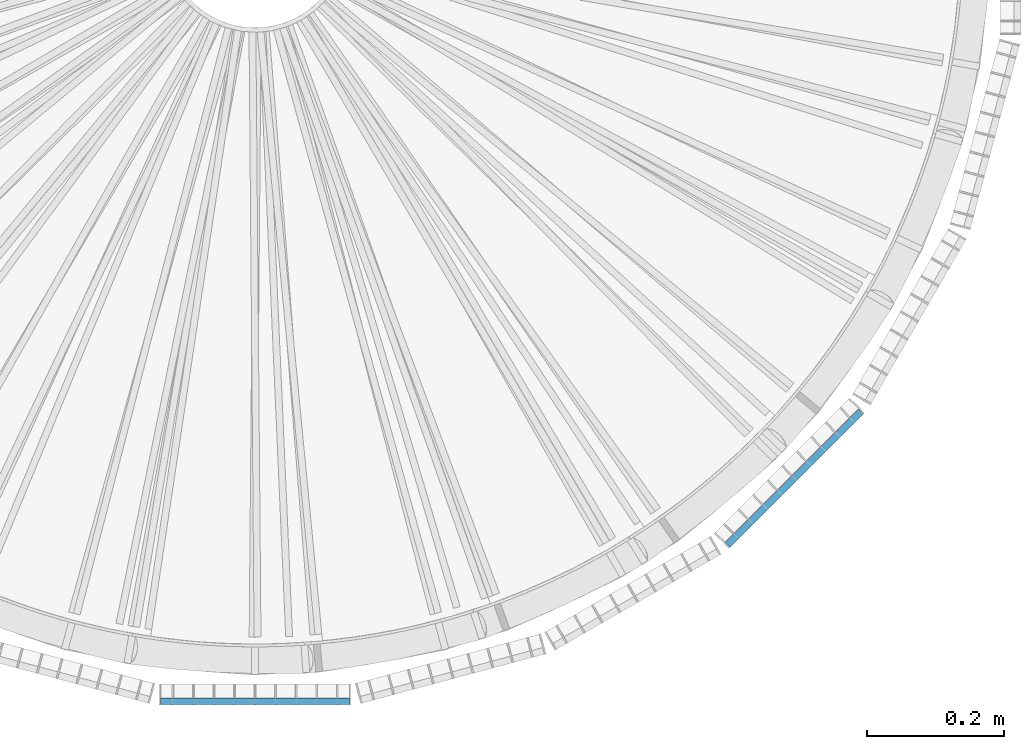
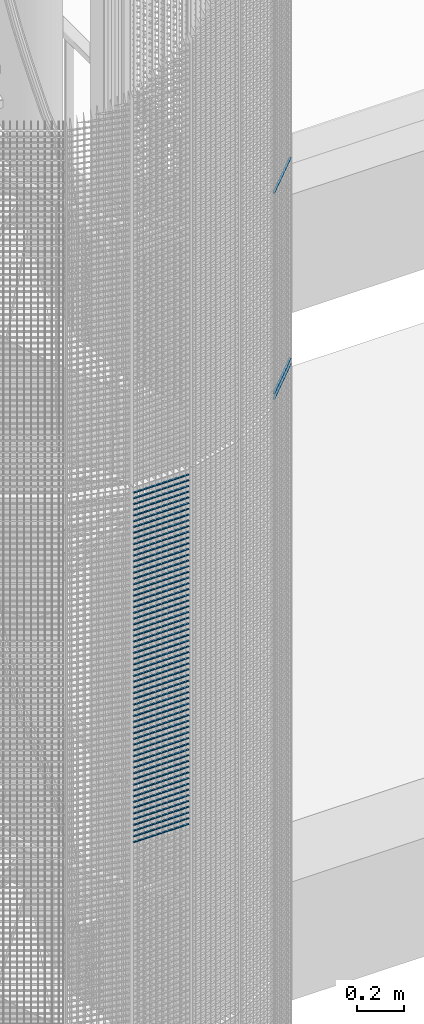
# One storey, part 397 of 1183: 65 beams, 2 elements without a shape of their own.
"""IFC2X3 building model written with IfcOpenShell, lengths in millimetres."""

import ifcopenshell
import ifcopenshell.guid

model = None  # the IFC model being written
_history = None  # IfcOwnerHistory: only IFC2X3 demands one
_inside = {}  # id of a spatial element -> (the spatial element, [elements in it])
_under = {}  # id of a project, library or spatial element -> (it, [spatial elements below it])
_declared = {}  # id of a project -> (the project, [libraries it declares])
_typed = {}  # id of a type object -> (the type object, [elements of that type])
_made_of = {}  # id of a material, layer set ... -> (it, [elements and type objects made of it])


def new_model(schema):
    """Start an empty IFC model of exactly this schema.

    Asked for "IFC4X3", IfcOpenShell would pick the latest addendum, in which some entities
    have other attributes; the version numbers below select the first issue.
    IFC2X3 requires an IfcOwnerHistory on every rooted entity: one is made here for all.
    """
    global model, _history
    if schema == "IFC4X3":
        model = ifcopenshell.file(schema_version=(4, 3, 0, 0))
    else:
        model = ifcopenshell.file(schema=schema)
    _inside.clear()
    _under.clear()
    _declared.clear()
    _typed.clear()
    _made_of.clear()
    _history = None
    if model.schema == "IFC2X3":
        org = make("IfcOrganization", Name="unknown")
        user = make(
            "IfcPersonAndOrganization",
            ThePerson=make("IfcPerson", FamilyName="unknown"),
            TheOrganization=org,
        )
        app = make(
            "IfcApplication",
            ApplicationDeveloper=org,
            Version="unknown",
            ApplicationFullName="unknown",
            ApplicationIdentifier="unknown",
        )
        _history = make(
            "IfcOwnerHistory",
            OwningUser=user,
            OwningApplication=app,
            ChangeAction="ADDED",
            CreationDate=0,
        )
    return model


def make(cls, **values):
    """One entity of the class cls with the attributes given. An attribute that is None is left unset."""
    return model.create_entity(
        cls, **{name: value for name, value in values.items() if value is not None}
    )


def rooted(cls, **values):
    """An entity with a GlobalId (a new one), such as an element, a storey or a relation."""
    return make(cls, GlobalId=ifcopenshell.guid.new(), OwnerHistory=_history, **values)


def si_unit(unit_type, name, prefix=None):
    """IfcSIUnit, for example si_unit("LENGTHUNIT", "METRE", prefix="MILLI")."""
    return make("IfcSIUnit", UnitType=unit_type, Prefix=prefix, Name=name)


def assignment(units):
    """IfcUnitAssignment: the units of a project."""
    return None if units is None else make("IfcUnitAssignment", Units=units)


def point(xyz):
    """IfcCartesianPoint."""
    return None if xyz is None else make("IfcCartesianPoint", Coordinates=xyz)


def direction(xyz):
    """IfcDirection."""
    return None if xyz is None else make("IfcDirection", DirectionRatios=xyz)


def frame(location, z_axis=None, x_axis=None):
    """IfcAxis2Placement3D, a coordinate frame: its origin and axes. An axis left out is left unset."""
    return make(
        "IfcAxis2Placement3D",
        Location=point(location),
        Axis=direction(z_axis),
        RefDirection=direction(x_axis),
    )


def frame_2d(location, x_axis=None):
    """IfcAxis2Placement2D, a coordinate frame in the plane: its origin and x axis."""
    return make(
        "IfcAxis2Placement2D", Location=point(location), RefDirection=direction(x_axis)
    )


def origin_with_axes():
    """The frame at (0, 0, 0) with the z axis (0, 0, 1) and the x axis (1, 0, 0) written out."""
    return frame((0.0, 0.0, 0.0), z_axis=(0.0, 0.0, 1.0), x_axis=(1.0, 0.0, 0.0))


def origin_2d_with_axis():
    """The frame at (0, 0) in the plane with the x axis (1, 0) written out."""
    return frame_2d((0.0, 0.0), x_axis=(1.0, 0.0))


def place(relative_to, where):
    """IfcLocalPlacement: puts the frame where relative to a parent placement (None: the world)."""
    return make(
        "IfcLocalPlacement", PlacementRelTo=relative_to, RelativePlacement=where
    )


def context(
    kind, dimensions, precision=None, world=None, true_north=None, identifier=None
):
    """IfcGeometricRepresentationContext, for example the 3D "Model" context."""
    return make(
        "IfcGeometricRepresentationContext",
        ContextIdentifier=identifier,
        ContextType=kind,
        CoordinateSpaceDimension=dimensions,
        Precision=precision,
        WorldCoordinateSystem=world,
        TrueNorth=true_north,
    )


def subcontext(parent, identifier, kind, view, scale=None):
    """IfcGeometricRepresentationSubContext, for example "Body" below "Model"."""
    return make(
        "IfcGeometricRepresentationSubContext",
        ContextIdentifier=identifier,
        ContextType=kind,
        ParentContext=parent,
        TargetScale=scale,
        TargetView=view,
    )


def project(units=None, contexts=None):
    """IfcProject with its units and contexts."""
    return rooted(
        "IfcProject",
        Name="project",
        RepresentationContexts=contexts,
        UnitsInContext=assignment(units),
    )


def spatial(cls, under=None, at=None, **own):
    """A site, building, storey or space (cls), placed at a placement, below another one or the project."""
    s = rooted(cls, ObjectPlacement=at, **own)
    if under is not None:
        _under.setdefault(under.id(), (under, []))[1].append(s)
    return s


def profile(cls, at=None, kind="AREA", **sizes):
    """A parametric profile (cls). Its sizes go by their IFC names, for example OverallWidth=200.0."""
    return make(cls, ProfileType=kind, Position=at, **sizes)


def rectangle(**sizes):
    """IfcRectangleProfileDef."""
    return profile("IfcRectangleProfileDef", **sizes)


def extrude(swept, where, along, depth):
    """IfcExtrudedAreaSolid: the profile swept, set in the frame where, extruded along a direction by depth."""
    return make(
        "IfcExtrudedAreaSolid",
        SweptArea=swept,
        Position=where,
        ExtrudedDirection=direction(along),
        Depth=depth,
    )


def shape(context_of_items, identifier, shape_type, items):
    """IfcShapeRepresentation: the items that make up one representation, for example the "Body"."""
    return make(
        "IfcShapeRepresentation",
        ContextOfItems=context_of_items,
        RepresentationIdentifier=identifier,
        RepresentationType=shape_type,
        Items=items,
    )


def material(Name=None, Category=None):
    """IfcMaterial."""
    return make("IfcMaterial", Name=Name, Category=Category)


def made_of(thing, what):
    """Note that an element or type object is made of a material, layer set ...; save() writes the relation."""
    if what is not None:
        _made_of.setdefault(what.id(), (what, []))[1].append(thing)
    return thing


def type_object(cls, material=None, **own):
    """A type object (cls), such as IfcWallType, which elements share."""
    return made_of(rooted(cls, **own), material)


def element(
    cls,
    number,
    at=None,
    inside=None,
    cuts=None,
    type_object=None,
    material=None,
    context=None,
    identifier="Body",
    shape_type=None,
    held_by="IfcProductDefinitionShape",
    body=None,
    shapes=None,
    **own,
):
    """One element of the class cls, such as IfcWall. Its Tag is "e" and its number.

    at: its placement. inside: the storey or other place that contains it. cuts: it is an
    opening in that element (IfcRelVoidsElement). A single representation is given by context,
    identifier, shape_type and body (its items); several are given by shapes. held_by: the class
    of the entity that holds the representations. save() writes the other relations.
    """
    e = rooted(cls, Tag="e%d" % number, ObjectPlacement=at, **own)
    if body is not None:
        shapes = [shape(context, identifier, shape_type, body)]
    if shapes is not None:
        e.Representation = make(held_by, Representations=shapes)
    if inside is not None:
        _inside.setdefault(inside.id(), (inside, []))[1].append(e)
    if cuts is not None:
        rooted(
            "IfcRelVoidsElement", RelatingBuildingElement=cuts, RelatedOpeningElement=e
        )
    if type_object is not None:
        _typed.setdefault(type_object.id(), (type_object, []))[1].append(e)
    return made_of(e, material)


def aggregate(whole, parts):
    """IfcRelAggregates: a whole, such as a stair, and the parts it consists of."""
    return rooted("IfcRelAggregates", RelatingObject=whole, RelatedObjects=parts)


def save(model, path):
    """Write the relations noted so far, then the file.

    IfcRelAggregates (storeys below a building ...), IfcRelContainedInSpatialStructure (elements
    in a storey), IfcRelDefinesByType, IfcRelAssociatesMaterial and IfcRelDeclares: one each for
    every whole, place, type object, material and project.
    """
    for whole, parts in _under.values():
        aggregate(whole, parts)
    for where, things in _inside.values():
        rooted(
            "IfcRelContainedInSpatialStructure",
            RelatedElements=things,
            RelatingStructure=where,
        )
    for kind, things in _typed.values():
        rooted("IfcRelDefinesByType", RelatedObjects=things, RelatingType=kind)
    for what, things in _made_of.values():
        rooted("IfcRelAssociatesMaterial", RelatedObjects=things, RelatingMaterial=what)
    for by, libraries in _declared.values():
        rooted("IfcRelDeclares", RelatingContext=by, RelatedDefinitions=libraries)
    model.write(path)


model = new_model("IFC2X3")

# Units and contexts
model_context = context("Model", 3, precision=1e-05, world=origin_with_axes())
body_context = subcontext(model_context, "Body", "Model", "MODEL_VIEW")
ifc_project = project(units=[si_unit("LENGTHUNIT", "METRE", prefix="MILLI"), si_unit("AREAUNIT", "SQUARE_METRE"), si_unit("VOLUMEUNIT", "CUBIC_METRE"), si_unit("MASSUNIT", "GRAM", prefix="KILO"), si_unit("TIMEUNIT", "SECOND"), si_unit("PLANEANGLEUNIT", "RADIAN"), si_unit("SOLIDANGLEUNIT", "STERADIAN"), si_unit("THERMODYNAMICTEMPERATUREUNIT", "DEGREE_CELSIUS"), si_unit("LUMINOUSINTENSITYUNIT", "LUMEN")], contexts=[model_context])

# Site, building, storey
site_placement = place(None, origin_with_axes())
site = spatial("IfcSite", under=ifc_project, at=site_placement, Name="Undefined", CompositionType="ELEMENT")
building_placement = place(site_placement, origin_with_axes())
building = spatial("IfcBuilding", under=site, at=building_placement, Name="Undefined", CompositionType="ELEMENT")
storey_placement = place(building_placement, origin_with_axes())
storey = spatial("IfcBuildingStorey", under=building, at=storey_placement, Name="Undefined", CompositionType="ELEMENT", Elevation=0.0)

# Assembly, beams
assembly_1_placement = place(storey_placement, origin_with_axes())
assembly_1 = element("IfcElementAssembly", 1, at=assembly_1_placement, inside=storey, Name="BORDURE", AssemblyPlace="NOTDEFINED", PredefinedType="NOTDEFINED")
ifc_material = material(Name="STEEL/S235JR")
beam_type = type_object("IfcBeamType", Name="PL2*10", PredefinedType="NOTDEFINED")
beam_1_placement = place(assembly_1_placement, frame((22484.9271684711, -689.771348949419, 15060.0), z_axis=(0.707106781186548, -0.707106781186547, 0.0), x_axis=(-0.70710678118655, -0.707106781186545, 0.0)))
beam_1 = element("IfcBeam", 2, at=beam_1_placement, type_object=beam_type, material=ifc_material, Name="ENTRETOISE", context=body_context, shape_type="SweptSolid", body=[
    extrude(rectangle(XDim=2.0, YDim=10.0, at=origin_2d_with_axis()), frame((275.999999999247, 9.09494701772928e-13, 1.53210777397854e-14), z_axis=(-1.0, 0.0, 0.0), x_axis=(0.0, -1.0, 0.0)), (0.0, 0.0, 1.0), 276.0),
])
beam_2_placement = place(assembly_1_placement, frame((22484.9271684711, -689.771348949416, 16110.0), z_axis=(0.707106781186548, -0.707106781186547, 0.0), x_axis=(-0.70710678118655, -0.707106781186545, 0.0)))
beam_2 = element("IfcBeam", 3, at=beam_2_placement, type_object=beam_type, material=ifc_material, Name="ENTRETOISE", context=body_context, shape_type="SweptSolid", body=[
    extrude(rectangle(XDim=2.0, YDim=10.0, at=origin_2d_with_axis()), frame((275.999999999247, 9.09494701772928e-13, 1.53210777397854e-14), z_axis=(-1.0, 0.0, 0.0), x_axis=(0.0, -1.0, 0.0)), (0.0, 0.0, 1.0), 276.0),
])
beam_3_placement = place(assembly_1_placement, frame((22484.9271684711, -689.771348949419, 15030.0), z_axis=(0.707106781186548, -0.707106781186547, 0.0), x_axis=(-0.70710678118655, -0.707106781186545, 0.0)))
beam_3 = element("IfcBeam", 4, at=beam_3_placement, type_object=beam_type, material=ifc_material, Name="ENTRETOISE", context=body_context, shape_type="SweptSolid", body=[
    extrude(rectangle(XDim=2.0, YDim=10.0, at=origin_2d_with_axis()), frame((275.999999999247, 9.09494701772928e-13, 1.53210777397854e-14), z_axis=(-1.0, 0.0, 0.0), x_axis=(0.0, -1.0, 0.0)), (0.0, 0.0, 1.0), 276.0),
])
aggregate(assembly_1, [beam_1, beam_2, beam_3])

assembly_2_placement = place(storey_placement, origin_with_axes())
assembly_2 = element("IfcElementAssembly", 5, at=assembly_2_placement, inside=storey, Name="BORDURE", AssemblyPlace="NOTDEFINED", PredefinedType="NOTDEFINED")
beam_4_placement = place(assembly_2_placement, frame((21737.9960033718, -1113.47999999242, 14970.0), z_axis=(0.0, -1.0, 0.0), x_axis=(-1.0, 0.0, 0.0)))
beam_4 = element("IfcBeam", 6, at=beam_4_placement, type_object=beam_type, material=ifc_material, Name="ENTRETOISE", context=body_context, shape_type="SweptSolid", body=[
    extrude(rectangle(XDim=2.0, YDim=10.0, at=origin_2d_with_axis()), frame((275.999999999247, 9.09494701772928e-13, 1.53210777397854e-14), z_axis=(-1.0, 0.0, 0.0), x_axis=(0.0, -1.0, 0.0)), (0.0, 0.0, 1.0), 276.0),
])
beam_5_placement = place(assembly_2_placement, frame((21737.9960033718, -1113.47999999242, 14940.0), z_axis=(0.0, -1.0, 0.0), x_axis=(-1.0, 0.0, 0.0)))
beam_5 = element("IfcBeam", 7, at=beam_5_placement, type_object=beam_type, material=ifc_material, Name="ENTRETOISE", context=body_context, shape_type="SweptSolid", body=[
    extrude(rectangle(XDim=2.0, YDim=10.0, at=origin_2d_with_axis()), frame((275.999999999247, 9.09494701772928e-13, 1.53210777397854e-14), z_axis=(-1.0, 0.0, 0.0), x_axis=(0.0, -1.0, 0.0)), (0.0, 0.0, 1.0), 276.0),
])
beam_6_placement = place(assembly_2_placement, frame((21737.9960033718, -1113.47999999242, 14910.0), z_axis=(0.0, -1.0, 0.0), x_axis=(-1.0, 0.0, 0.0)))
beam_6 = element("IfcBeam", 8, at=beam_6_placement, type_object=beam_type, material=ifc_material, Name="ENTRETOISE", context=body_context, shape_type="SweptSolid", body=[
    extrude(rectangle(XDim=2.0, YDim=10.0, at=origin_2d_with_axis()), frame((275.999999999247, 9.09494701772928e-13, 1.53210777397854e-14), z_axis=(-1.0, 0.0, 0.0), x_axis=(0.0, -1.0, 0.0)), (0.0, 0.0, 1.0), 276.0),
])
beam_7_placement = place(assembly_2_placement, frame((21737.9960033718, -1113.47999999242, 14880.0), z_axis=(0.0, -1.0, 0.0), x_axis=(-1.0, 0.0, 0.0)))
beam_7 = element("IfcBeam", 9, at=beam_7_placement, type_object=beam_type, material=ifc_material, Name="ENTRETOISE", context=body_context, shape_type="SweptSolid", body=[
    extrude(rectangle(XDim=2.0, YDim=10.0, at=origin_2d_with_axis()), frame((275.999999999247, 9.09494701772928e-13, 1.53210777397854e-14), z_axis=(-1.0, 0.0, 0.0), x_axis=(0.0, -1.0, 0.0)), (0.0, 0.0, 1.0), 276.0),
])
beam_8_placement = place(assembly_2_placement, frame((21737.9960033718, -1113.47999999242, 14850.0), z_axis=(0.0, -1.0, 0.0), x_axis=(-1.0, 0.0, 0.0)))
beam_8 = element("IfcBeam", 10, at=beam_8_placement, type_object=beam_type, material=ifc_material, Name="ENTRETOISE", context=body_context, shape_type="SweptSolid", body=[
    extrude(rectangle(XDim=2.0, YDim=10.0, at=origin_2d_with_axis()), frame((275.999999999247, 9.09494701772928e-13, 1.53210777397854e-14), z_axis=(-1.0, 0.0, 0.0), x_axis=(0.0, -1.0, 0.0)), (0.0, 0.0, 1.0), 276.0),
])
beam_9_placement = place(assembly_2_placement, frame((21737.9960033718, -1113.47999999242, 14820.0), z_axis=(0.0, -1.0, 0.0), x_axis=(-1.0, 0.0, 0.0)))
beam_9 = element("IfcBeam", 11, at=beam_9_placement, type_object=beam_type, material=ifc_material, Name="ENTRETOISE", context=body_context, shape_type="SweptSolid", body=[
    extrude(rectangle(XDim=2.0, YDim=10.0, at=origin_2d_with_axis()), frame((275.999999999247, 9.09494701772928e-13, 1.53210777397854e-14), z_axis=(-1.0, 0.0, 0.0), x_axis=(0.0, -1.0, 0.0)), (0.0, 0.0, 1.0), 276.0),
])
beam_10_placement = place(assembly_2_placement, frame((21737.9960033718, -1113.47999999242, 14790.0), z_axis=(0.0, -1.0, 0.0), x_axis=(-1.0, 0.0, 0.0)))
beam_10 = element("IfcBeam", 12, at=beam_10_placement, type_object=beam_type, material=ifc_material, Name="ENTRETOISE", context=body_context, shape_type="SweptSolid", body=[
    extrude(rectangle(XDim=2.0, YDim=10.0, at=origin_2d_with_axis()), frame((275.999999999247, 9.09494701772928e-13, 1.53210777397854e-14), z_axis=(-1.0, 0.0, 0.0), x_axis=(0.0, -1.0, 0.0)), (0.0, 0.0, 1.0), 276.0),
])
beam_11_placement = place(assembly_2_placement, frame((21737.9960033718, -1113.47999999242, 14760.0), z_axis=(0.0, -1.0, 0.0), x_axis=(-1.0, 0.0, 0.0)))
beam_11 = element("IfcBeam", 13, at=beam_11_placement, type_object=beam_type, material=ifc_material, Name="ENTRETOISE", context=body_context, shape_type="SweptSolid", body=[
    extrude(rectangle(XDim=2.0, YDim=10.0, at=origin_2d_with_axis()), frame((275.999999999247, 9.09494701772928e-13, 1.53210777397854e-14), z_axis=(-1.0, 0.0, 0.0), x_axis=(0.0, -1.0, 0.0)), (0.0, 0.0, 1.0), 276.0),
])
beam_12_placement = place(assembly_2_placement, frame((21737.9960033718, -1113.47999999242, 14730.0), z_axis=(0.0, -1.0, 0.0), x_axis=(-1.0, 0.0, 0.0)))
beam_12 = element("IfcBeam", 14, at=beam_12_placement, type_object=beam_type, material=ifc_material, Name="ENTRETOISE", context=body_context, shape_type="SweptSolid", body=[
    extrude(rectangle(XDim=2.0, YDim=10.0, at=origin_2d_with_axis()), frame((275.999999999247, 9.09494701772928e-13, 1.53210777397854e-14), z_axis=(-1.0, 0.0, 0.0), x_axis=(0.0, -1.0, 0.0)), (0.0, 0.0, 1.0), 276.0),
])
beam_13_placement = place(assembly_2_placement, frame((21737.9960033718, -1113.47999999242, 14700.0), z_axis=(0.0, -1.0, 0.0), x_axis=(-1.0, 0.0, 0.0)))
beam_13 = element("IfcBeam", 15, at=beam_13_placement, type_object=beam_type, material=ifc_material, Name="ENTRETOISE", context=body_context, shape_type="SweptSolid", body=[
    extrude(rectangle(XDim=2.0, YDim=10.0, at=origin_2d_with_axis()), frame((275.999999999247, 9.09494701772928e-13, 1.53210777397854e-14), z_axis=(-1.0, 0.0, 0.0), x_axis=(0.0, -1.0, 0.0)), (0.0, 0.0, 1.0), 276.0),
])
beam_14_placement = place(assembly_2_placement, frame((21737.9960033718, -1113.47999999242, 14670.0), z_axis=(0.0, -1.0, 0.0), x_axis=(-1.0, 0.0, 0.0)))
beam_14 = element("IfcBeam", 16, at=beam_14_placement, type_object=beam_type, material=ifc_material, Name="ENTRETOISE", context=body_context, shape_type="SweptSolid", body=[
    extrude(rectangle(XDim=2.0, YDim=10.0, at=origin_2d_with_axis()), frame((275.999999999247, 9.09494701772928e-13, 1.53210777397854e-14), z_axis=(-1.0, 0.0, 0.0), x_axis=(0.0, -1.0, 0.0)), (0.0, 0.0, 1.0), 276.0),
])
beam_15_placement = place(assembly_2_placement, frame((21737.9960033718, -1113.47999999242, 14640.0), z_axis=(0.0, -1.0, 0.0), x_axis=(-1.0, 0.0, 0.0)))
beam_15 = element("IfcBeam", 17, at=beam_15_placement, type_object=beam_type, material=ifc_material, Name="ENTRETOISE", context=body_context, shape_type="SweptSolid", body=[
    extrude(rectangle(XDim=2.0, YDim=10.0, at=origin_2d_with_axis()), frame((275.999999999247, 9.09494701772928e-13, 1.53210777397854e-14), z_axis=(-1.0, 0.0, 0.0), x_axis=(0.0, -1.0, 0.0)), (0.0, 0.0, 1.0), 276.0),
])
beam_16_placement = place(assembly_2_placement, frame((21737.9960033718, -1113.47999999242, 14610.0), z_axis=(0.0, -1.0, 0.0), x_axis=(-1.0, 0.0, 0.0)))
beam_16 = element("IfcBeam", 18, at=beam_16_placement, type_object=beam_type, material=ifc_material, Name="ENTRETOISE", context=body_context, shape_type="SweptSolid", body=[
    extrude(rectangle(XDim=2.0, YDim=10.0, at=origin_2d_with_axis()), frame((275.999999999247, 9.09494701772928e-13, 1.53210777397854e-14), z_axis=(-1.0, 0.0, 0.0), x_axis=(0.0, -1.0, 0.0)), (0.0, 0.0, 1.0), 276.0),
])
beam_17_placement = place(assembly_2_placement, frame((21737.9960033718, -1113.47999999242, 14580.0), z_axis=(0.0, -1.0, 0.0), x_axis=(-1.0, 0.0, 0.0)))
beam_17 = element("IfcBeam", 19, at=beam_17_placement, type_object=beam_type, material=ifc_material, Name="ENTRETOISE", context=body_context, shape_type="SweptSolid", body=[
    extrude(rectangle(XDim=2.0, YDim=10.0, at=origin_2d_with_axis()), frame((275.999999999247, 9.09494701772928e-13, 1.53210777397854e-14), z_axis=(-1.0, 0.0, 0.0), x_axis=(0.0, -1.0, 0.0)), (0.0, 0.0, 1.0), 276.0),
])
beam_18_placement = place(assembly_2_placement, frame((21737.9960033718, -1113.47999999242, 14550.0), z_axis=(0.0, -1.0, 0.0), x_axis=(-1.0, 0.0, 0.0)))
beam_18 = element("IfcBeam", 20, at=beam_18_placement, type_object=beam_type, material=ifc_material, Name="ENTRETOISE", context=body_context, shape_type="SweptSolid", body=[
    extrude(rectangle(XDim=2.0, YDim=10.0, at=origin_2d_with_axis()), frame((275.999999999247, 9.09494701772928e-13, 1.53210777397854e-14), z_axis=(-1.0, 0.0, 0.0), x_axis=(0.0, -1.0, 0.0)), (0.0, 0.0, 1.0), 276.0),
])
beam_19_placement = place(assembly_2_placement, frame((21737.9960033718, -1113.47999999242, 14520.0), z_axis=(0.0, -1.0, 0.0), x_axis=(-1.0, 0.0, 0.0)))
beam_19 = element("IfcBeam", 21, at=beam_19_placement, type_object=beam_type, material=ifc_material, Name="ENTRETOISE", context=body_context, shape_type="SweptSolid", body=[
    extrude(rectangle(XDim=2.0, YDim=10.0, at=origin_2d_with_axis()), frame((275.999999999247, 9.09494701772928e-13, 1.53210777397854e-14), z_axis=(-1.0, 0.0, 0.0), x_axis=(0.0, -1.0, 0.0)), (0.0, 0.0, 1.0), 276.0),
])
beam_20_placement = place(assembly_2_placement, frame((21737.9960033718, -1113.47999999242, 14490.0), z_axis=(0.0, -1.0, 0.0), x_axis=(-1.0, 0.0, 0.0)))
beam_20 = element("IfcBeam", 22, at=beam_20_placement, type_object=beam_type, material=ifc_material, Name="ENTRETOISE", context=body_context, shape_type="SweptSolid", body=[
    extrude(rectangle(XDim=2.0, YDim=10.0, at=origin_2d_with_axis()), frame((275.999999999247, 9.09494701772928e-13, 1.53210777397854e-14), z_axis=(-1.0, 0.0, 0.0), x_axis=(0.0, -1.0, 0.0)), (0.0, 0.0, 1.0), 276.0),
])
beam_21_placement = place(assembly_2_placement, frame((21737.9960033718, -1113.47999999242, 14460.0), z_axis=(0.0, -1.0, 0.0), x_axis=(-1.0, 0.0, 0.0)))
beam_21 = element("IfcBeam", 23, at=beam_21_placement, type_object=beam_type, material=ifc_material, Name="ENTRETOISE", context=body_context, shape_type="SweptSolid", body=[
    extrude(rectangle(XDim=2.0, YDim=10.0, at=origin_2d_with_axis()), frame((275.999999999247, 9.09494701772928e-13, 1.53210777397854e-14), z_axis=(-1.0, 0.0, 0.0), x_axis=(0.0, -1.0, 0.0)), (0.0, 0.0, 1.0), 276.0),
])
beam_22_placement = place(assembly_2_placement, frame((21737.9960033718, -1113.47999999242, 14430.0), z_axis=(0.0, -1.0, 0.0), x_axis=(-1.0, 0.0, 0.0)))
beam_22 = element("IfcBeam", 24, at=beam_22_placement, type_object=beam_type, material=ifc_material, Name="ENTRETOISE", context=body_context, shape_type="SweptSolid", body=[
    extrude(rectangle(XDim=2.0, YDim=10.0, at=origin_2d_with_axis()), frame((275.999999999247, 9.09494701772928e-13, 1.53210777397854e-14), z_axis=(-1.0, 0.0, 0.0), x_axis=(0.0, -1.0, 0.0)), (0.0, 0.0, 1.0), 276.0),
])
beam_23_placement = place(assembly_2_placement, frame((21737.9960033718, -1113.47999999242, 14400.0), z_axis=(0.0, -1.0, 0.0), x_axis=(-1.0, 0.0, 0.0)))
beam_23 = element("IfcBeam", 25, at=beam_23_placement, type_object=beam_type, material=ifc_material, Name="ENTRETOISE", context=body_context, shape_type="SweptSolid", body=[
    extrude(rectangle(XDim=2.0, YDim=10.0, at=origin_2d_with_axis()), frame((275.999999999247, 9.09494701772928e-13, 1.53210777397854e-14), z_axis=(-1.0, 0.0, 0.0), x_axis=(0.0, -1.0, 0.0)), (0.0, 0.0, 1.0), 276.0),
])
beam_24_placement = place(assembly_2_placement, frame((21737.9960033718, -1113.47999999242, 14370.0), z_axis=(0.0, -1.0, 0.0), x_axis=(-1.0, 0.0, 0.0)))
beam_24 = element("IfcBeam", 26, at=beam_24_placement, type_object=beam_type, material=ifc_material, Name="ENTRETOISE", context=body_context, shape_type="SweptSolid", body=[
    extrude(rectangle(XDim=2.0, YDim=10.0, at=origin_2d_with_axis()), frame((275.999999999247, 9.09494701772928e-13, 1.53210777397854e-14), z_axis=(-1.0, 0.0, 0.0), x_axis=(0.0, -1.0, 0.0)), (0.0, 0.0, 1.0), 276.0),
])
beam_25_placement = place(assembly_2_placement, frame((21737.9960033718, -1113.47999999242, 14340.0), z_axis=(0.0, -1.0, 0.0), x_axis=(-1.0, 0.0, 0.0)))
beam_25 = element("IfcBeam", 27, at=beam_25_placement, type_object=beam_type, material=ifc_material, Name="ENTRETOISE", context=body_context, shape_type="SweptSolid", body=[
    extrude(rectangle(XDim=2.0, YDim=10.0, at=origin_2d_with_axis()), frame((275.999999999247, 9.09494701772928e-13, 1.53210777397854e-14), z_axis=(-1.0, 0.0, 0.0), x_axis=(0.0, -1.0, 0.0)), (0.0, 0.0, 1.0), 276.0),
])
beam_26_placement = place(assembly_2_placement, frame((21737.9960033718, -1113.47999999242, 14310.0), z_axis=(0.0, -1.0, 0.0), x_axis=(-1.0, 0.0, 0.0)))
beam_26 = element("IfcBeam", 28, at=beam_26_placement, type_object=beam_type, material=ifc_material, Name="ENTRETOISE", context=body_context, shape_type="SweptSolid", body=[
    extrude(rectangle(XDim=2.0, YDim=10.0, at=origin_2d_with_axis()), frame((275.999999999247, 9.09494701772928e-13, 1.53210777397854e-14), z_axis=(-1.0, 0.0, 0.0), x_axis=(0.0, -1.0, 0.0)), (0.0, 0.0, 1.0), 276.0),
])
beam_27_placement = place(assembly_2_placement, frame((21737.9960033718, -1113.47999999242, 14280.0), z_axis=(0.0, -1.0, 0.0), x_axis=(-1.0, 0.0, 0.0)))
beam_27 = element("IfcBeam", 29, at=beam_27_placement, type_object=beam_type, material=ifc_material, Name="ENTRETOISE", context=body_context, shape_type="SweptSolid", body=[
    extrude(rectangle(XDim=2.0, YDim=10.0, at=origin_2d_with_axis()), frame((275.999999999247, 9.09494701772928e-13, 1.53210777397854e-14), z_axis=(-1.0, 0.0, 0.0), x_axis=(0.0, -1.0, 0.0)), (0.0, 0.0, 1.0), 276.0),
])
beam_28_placement = place(assembly_2_placement, frame((21737.9960033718, -1113.47999999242, 14250.0), z_axis=(0.0, -1.0, 0.0), x_axis=(-1.0, 0.0, 0.0)))
beam_28 = element("IfcBeam", 30, at=beam_28_placement, type_object=beam_type, material=ifc_material, Name="ENTRETOISE", context=body_context, shape_type="SweptSolid", body=[
    extrude(rectangle(XDim=2.0, YDim=10.0, at=origin_2d_with_axis()), frame((275.999999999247, 9.09494701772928e-13, 1.53210777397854e-14), z_axis=(-1.0, 0.0, 0.0), x_axis=(0.0, -1.0, 0.0)), (0.0, 0.0, 1.0), 276.0),
])
beam_29_placement = place(assembly_2_placement, frame((21737.9960033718, -1113.47999999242, 14220.0), z_axis=(0.0, -1.0, 0.0), x_axis=(-1.0, 0.0, 0.0)))
beam_29 = element("IfcBeam", 31, at=beam_29_placement, type_object=beam_type, material=ifc_material, Name="ENTRETOISE", context=body_context, shape_type="SweptSolid", body=[
    extrude(rectangle(XDim=2.0, YDim=10.0, at=origin_2d_with_axis()), frame((275.999999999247, 9.09494701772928e-13, 1.53210777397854e-14), z_axis=(-1.0, 0.0, 0.0), x_axis=(0.0, -1.0, 0.0)), (0.0, 0.0, 1.0), 276.0),
])
beam_30_placement = place(assembly_2_placement, frame((21737.9960033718, -1113.47999999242, 14190.0), z_axis=(0.0, -1.0, 0.0), x_axis=(-1.0, 0.0, 0.0)))
beam_30 = element("IfcBeam", 32, at=beam_30_placement, type_object=beam_type, material=ifc_material, Name="ENTRETOISE", context=body_context, shape_type="SweptSolid", body=[
    extrude(rectangle(XDim=2.0, YDim=10.0, at=origin_2d_with_axis()), frame((275.999999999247, 9.09494701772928e-13, 1.53210777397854e-14), z_axis=(-1.0, 0.0, 0.0), x_axis=(0.0, -1.0, 0.0)), (0.0, 0.0, 1.0), 276.0),
])
beam_31_placement = place(assembly_2_placement, frame((21737.9960033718, -1113.47999999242, 14160.0), z_axis=(0.0, -1.0, 0.0), x_axis=(-1.0, 0.0, 0.0)))
beam_31 = element("IfcBeam", 33, at=beam_31_placement, type_object=beam_type, material=ifc_material, Name="ENTRETOISE", context=body_context, shape_type="SweptSolid", body=[
    extrude(rectangle(XDim=2.0, YDim=10.0, at=origin_2d_with_axis()), frame((275.999999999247, 9.09494701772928e-13, 1.53210777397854e-14), z_axis=(-1.0, 0.0, 0.0), x_axis=(0.0, -1.0, 0.0)), (0.0, 0.0, 1.0), 276.0),
])
beam_32_placement = place(assembly_2_placement, frame((21737.9960033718, -1113.47999999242, 14130.0), z_axis=(0.0, -1.0, 0.0), x_axis=(-1.0, 0.0, 0.0)))
beam_32 = element("IfcBeam", 34, at=beam_32_placement, type_object=beam_type, material=ifc_material, Name="ENTRETOISE", context=body_context, shape_type="SweptSolid", body=[
    extrude(rectangle(XDim=2.0, YDim=10.0, at=origin_2d_with_axis()), frame((275.999999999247, 9.09494701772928e-13, 1.53210777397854e-14), z_axis=(-1.0, 0.0, 0.0), x_axis=(0.0, -1.0, 0.0)), (0.0, 0.0, 1.0), 276.0),
])
beam_33_placement = place(assembly_2_placement, frame((21737.9960033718, -1113.47999999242, 14100.0), z_axis=(0.0, -1.0, 0.0), x_axis=(-1.0, 0.0, 0.0)))
beam_33 = element("IfcBeam", 35, at=beam_33_placement, type_object=beam_type, material=ifc_material, Name="ENTRETOISE", context=body_context, shape_type="SweptSolid", body=[
    extrude(rectangle(XDim=2.0, YDim=10.0, at=origin_2d_with_axis()), frame((275.999999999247, 9.09494701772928e-13, 1.53210777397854e-14), z_axis=(-1.0, 0.0, 0.0), x_axis=(0.0, -1.0, 0.0)), (0.0, 0.0, 1.0), 276.0),
])
beam_34_placement = place(assembly_2_placement, frame((21737.9960033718, -1113.47999999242, 14070.0), z_axis=(0.0, -1.0, 0.0), x_axis=(-1.0, 0.0, 0.0)))
beam_34 = element("IfcBeam", 36, at=beam_34_placement, type_object=beam_type, material=ifc_material, Name="ENTRETOISE", context=body_context, shape_type="SweptSolid", body=[
    extrude(rectangle(XDim=2.0, YDim=10.0, at=origin_2d_with_axis()), frame((275.999999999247, 9.09494701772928e-13, 1.53210777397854e-14), z_axis=(-1.0, 0.0, 0.0), x_axis=(0.0, -1.0, 0.0)), (0.0, 0.0, 1.0), 276.0),
])
beam_35_placement = place(assembly_2_placement, frame((21737.9960033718, -1113.47999999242, 14040.0), z_axis=(0.0, -1.0, 0.0), x_axis=(-1.0, 0.0, 0.0)))
beam_35 = element("IfcBeam", 37, at=beam_35_placement, type_object=beam_type, material=ifc_material, Name="ENTRETOISE", context=body_context, shape_type="SweptSolid", body=[
    extrude(rectangle(XDim=2.0, YDim=10.0, at=origin_2d_with_axis()), frame((275.999999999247, 9.09494701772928e-13, 1.53210777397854e-14), z_axis=(-1.0, 0.0, 0.0), x_axis=(0.0, -1.0, 0.0)), (0.0, 0.0, 1.0), 276.0),
])
beam_36_placement = place(assembly_2_placement, frame((21737.9960033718, -1113.47999999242, 14010.0), z_axis=(0.0, -1.0, 0.0), x_axis=(-1.0, 0.0, 0.0)))
beam_36 = element("IfcBeam", 38, at=beam_36_placement, type_object=beam_type, material=ifc_material, Name="ENTRETOISE", context=body_context, shape_type="SweptSolid", body=[
    extrude(rectangle(XDim=2.0, YDim=10.0, at=origin_2d_with_axis()), frame((275.999999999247, 9.09494701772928e-13, 1.53210777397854e-14), z_axis=(-1.0, 0.0, 0.0), x_axis=(0.0, -1.0, 0.0)), (0.0, 0.0, 1.0), 276.0),
])
beam_37_placement = place(assembly_2_placement, frame((21737.9960033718, -1113.47999999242, 13980.0), z_axis=(0.0, -1.0, 0.0), x_axis=(-1.0, 0.0, 0.0)))
beam_37 = element("IfcBeam", 39, at=beam_37_placement, type_object=beam_type, material=ifc_material, Name="ENTRETOISE", context=body_context, shape_type="SweptSolid", body=[
    extrude(rectangle(XDim=2.0, YDim=10.0, at=origin_2d_with_axis()), frame((275.999999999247, 9.09494701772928e-13, 1.53210777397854e-14), z_axis=(-1.0, 0.0, 0.0), x_axis=(0.0, -1.0, 0.0)), (0.0, 0.0, 1.0), 276.0),
])
beam_38_placement = place(assembly_2_placement, frame((21737.9960033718, -1113.47999999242, 13950.0), z_axis=(0.0, -1.0, 0.0), x_axis=(-1.0, 0.0, 0.0)))
beam_38 = element("IfcBeam", 40, at=beam_38_placement, type_object=beam_type, material=ifc_material, Name="ENTRETOISE", context=body_context, shape_type="SweptSolid", body=[
    extrude(rectangle(XDim=2.0, YDim=10.0, at=origin_2d_with_axis()), frame((275.999999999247, 9.09494701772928e-13, 1.53210777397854e-14), z_axis=(-1.0, 0.0, 0.0), x_axis=(0.0, -1.0, 0.0)), (0.0, 0.0, 1.0), 276.0),
])
beam_39_placement = place(assembly_2_placement, frame((21737.9960033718, -1113.47999999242, 13920.0), z_axis=(0.0, -1.0, 0.0), x_axis=(-1.0, 0.0, 0.0)))
beam_39 = element("IfcBeam", 41, at=beam_39_placement, type_object=beam_type, material=ifc_material, Name="ENTRETOISE", context=body_context, shape_type="SweptSolid", body=[
    extrude(rectangle(XDim=2.0, YDim=10.0, at=origin_2d_with_axis()), frame((275.999999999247, 9.09494701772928e-13, 1.53210777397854e-14), z_axis=(-1.0, 0.0, 0.0), x_axis=(0.0, -1.0, 0.0)), (0.0, 0.0, 1.0), 276.0),
])
beam_40_placement = place(assembly_2_placement, frame((21737.9960033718, -1113.47999999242, 13890.0), z_axis=(0.0, -1.0, 0.0), x_axis=(-1.0, 0.0, 0.0)))
beam_40 = element("IfcBeam", 42, at=beam_40_placement, type_object=beam_type, material=ifc_material, Name="ENTRETOISE", context=body_context, shape_type="SweptSolid", body=[
    extrude(rectangle(XDim=2.0, YDim=10.0, at=origin_2d_with_axis()), frame((275.999999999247, 9.09494701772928e-13, 1.53210777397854e-14), z_axis=(-1.0, 0.0, 0.0), x_axis=(0.0, -1.0, 0.0)), (0.0, 0.0, 1.0), 276.0),
])
beam_41_placement = place(assembly_2_placement, frame((21737.9960033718, -1113.47999999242, 13860.0), z_axis=(0.0, -1.0, 0.0), x_axis=(-1.0, 0.0, 0.0)))
beam_41 = element("IfcBeam", 43, at=beam_41_placement, type_object=beam_type, material=ifc_material, Name="ENTRETOISE", context=body_context, shape_type="SweptSolid", body=[
    extrude(rectangle(XDim=2.0, YDim=10.0, at=origin_2d_with_axis()), frame((275.999999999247, 9.09494701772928e-13, 1.53210777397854e-14), z_axis=(-1.0, 0.0, 0.0), x_axis=(0.0, -1.0, 0.0)), (0.0, 0.0, 1.0), 276.0),
])
beam_42_placement = place(assembly_2_placement, frame((21737.9960033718, -1113.47999999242, 13830.0), z_axis=(0.0, -1.0, 0.0), x_axis=(-1.0, 0.0, 0.0)))
beam_42 = element("IfcBeam", 44, at=beam_42_placement, type_object=beam_type, material=ifc_material, Name="ENTRETOISE", context=body_context, shape_type="SweptSolid", body=[
    extrude(rectangle(XDim=2.0, YDim=10.0, at=origin_2d_with_axis()), frame((275.999999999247, 9.09494701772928e-13, 1.53210777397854e-14), z_axis=(-1.0, 0.0, 0.0), x_axis=(0.0, -1.0, 0.0)), (0.0, 0.0, 1.0), 276.0),
])
beam_43_placement = place(assembly_2_placement, frame((21737.9960033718, -1113.47999999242, 13800.0), z_axis=(0.0, -1.0, 0.0), x_axis=(-1.0, 0.0, 0.0)))
beam_43 = element("IfcBeam", 45, at=beam_43_placement, type_object=beam_type, material=ifc_material, Name="ENTRETOISE", context=body_context, shape_type="SweptSolid", body=[
    extrude(rectangle(XDim=2.0, YDim=10.0, at=origin_2d_with_axis()), frame((275.999999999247, 9.09494701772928e-13, 1.53210777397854e-14), z_axis=(-1.0, 0.0, 0.0), x_axis=(0.0, -1.0, 0.0)), (0.0, 0.0, 1.0), 276.0),
])
beam_44_placement = place(assembly_2_placement, frame((21737.9960033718, -1113.47999999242, 13770.0), z_axis=(0.0, -1.0, 0.0), x_axis=(-1.0, 0.0, 0.0)))
beam_44 = element("IfcBeam", 46, at=beam_44_placement, type_object=beam_type, material=ifc_material, Name="ENTRETOISE", context=body_context, shape_type="SweptSolid", body=[
    extrude(rectangle(XDim=2.0, YDim=10.0, at=origin_2d_with_axis()), frame((275.999999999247, 9.09494701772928e-13, 1.53210777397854e-14), z_axis=(-1.0, 0.0, 0.0), x_axis=(0.0, -1.0, 0.0)), (0.0, 0.0, 1.0), 276.0),
])
beam_45_placement = place(assembly_2_placement, frame((21737.9960033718, -1113.47999999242, 13740.0), z_axis=(0.0, -1.0, 0.0), x_axis=(-1.0, 0.0, 0.0)))
beam_45 = element("IfcBeam", 47, at=beam_45_placement, type_object=beam_type, material=ifc_material, Name="ENTRETOISE", context=body_context, shape_type="SweptSolid", body=[
    extrude(rectangle(XDim=2.0, YDim=10.0, at=origin_2d_with_axis()), frame((275.999999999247, 9.09494701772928e-13, 1.53210777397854e-14), z_axis=(-1.0, 0.0, 0.0), x_axis=(0.0, -1.0, 0.0)), (0.0, 0.0, 1.0), 276.0),
])
beam_46_placement = place(assembly_2_placement, frame((21737.9960033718, -1113.47999999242, 13710.0), z_axis=(0.0, -1.0, 0.0), x_axis=(-1.0, 0.0, 0.0)))
beam_46 = element("IfcBeam", 48, at=beam_46_placement, type_object=beam_type, material=ifc_material, Name="ENTRETOISE", context=body_context, shape_type="SweptSolid", body=[
    extrude(rectangle(XDim=2.0, YDim=10.0, at=origin_2d_with_axis()), frame((275.999999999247, 9.09494701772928e-13, 1.53210777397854e-14), z_axis=(-1.0, 0.0, 0.0), x_axis=(0.0, -1.0, 0.0)), (0.0, 0.0, 1.0), 276.0),
])
beam_47_placement = place(assembly_2_placement, frame((21737.9960033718, -1113.47999999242, 13680.0), z_axis=(0.0, -1.0, 0.0), x_axis=(-1.0, 0.0, 0.0)))
beam_47 = element("IfcBeam", 49, at=beam_47_placement, type_object=beam_type, material=ifc_material, Name="ENTRETOISE", context=body_context, shape_type="SweptSolid", body=[
    extrude(rectangle(XDim=2.0, YDim=10.0, at=origin_2d_with_axis()), frame((275.999999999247, 9.09494701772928e-13, 1.53210777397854e-14), z_axis=(-1.0, 0.0, 0.0), x_axis=(0.0, -1.0, 0.0)), (0.0, 0.0, 1.0), 276.0),
])
beam_48_placement = place(assembly_2_placement, frame((21737.9960033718, -1113.47999999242, 13650.0), z_axis=(0.0, -1.0, 0.0), x_axis=(-1.0, 0.0, 0.0)))
beam_48 = element("IfcBeam", 50, at=beam_48_placement, type_object=beam_type, material=ifc_material, Name="ENTRETOISE", context=body_context, shape_type="SweptSolid", body=[
    extrude(rectangle(XDim=2.0, YDim=10.0, at=origin_2d_with_axis()), frame((275.999999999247, 9.09494701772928e-13, 1.53210777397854e-14), z_axis=(-1.0, 0.0, 0.0), x_axis=(0.0, -1.0, 0.0)), (0.0, 0.0, 1.0), 276.0),
])
beam_49_placement = place(assembly_2_placement, frame((21737.9960033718, -1113.47999999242, 13620.0), z_axis=(0.0, -1.0, 0.0), x_axis=(-1.0, 0.0, 0.0)))
beam_49 = element("IfcBeam", 51, at=beam_49_placement, type_object=beam_type, material=ifc_material, Name="ENTRETOISE", context=body_context, shape_type="SweptSolid", body=[
    extrude(rectangle(XDim=2.0, YDim=10.0, at=origin_2d_with_axis()), frame((275.999999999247, 9.09494701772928e-13, 1.53210777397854e-14), z_axis=(-1.0, 0.0, 0.0), x_axis=(0.0, -1.0, 0.0)), (0.0, 0.0, 1.0), 276.0),
])
beam_50_placement = place(assembly_2_placement, frame((21737.9960033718, -1113.47999999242, 13590.0), z_axis=(0.0, -1.0, 0.0), x_axis=(-1.0, 0.0, 0.0)))
beam_50 = element("IfcBeam", 52, at=beam_50_placement, type_object=beam_type, material=ifc_material, Name="ENTRETOISE", context=body_context, shape_type="SweptSolid", body=[
    extrude(rectangle(XDim=2.0, YDim=10.0, at=origin_2d_with_axis()), frame((275.999999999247, 9.09494701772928e-13, 1.53210777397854e-14), z_axis=(-1.0, 0.0, 0.0), x_axis=(0.0, -1.0, 0.0)), (0.0, 0.0, 1.0), 276.0),
])
beam_51_placement = place(assembly_2_placement, frame((21737.9960033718, -1113.47999999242, 13560.0), z_axis=(0.0, -1.0, 0.0), x_axis=(-1.0, 0.0, 0.0)))
beam_51 = element("IfcBeam", 53, at=beam_51_placement, type_object=beam_type, material=ifc_material, Name="ENTRETOISE", context=body_context, shape_type="SweptSolid", body=[
    extrude(rectangle(XDim=2.0, YDim=10.0, at=origin_2d_with_axis()), frame((275.999999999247, 9.09494701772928e-13, 1.53210777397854e-14), z_axis=(-1.0, 0.0, 0.0), x_axis=(0.0, -1.0, 0.0)), (0.0, 0.0, 1.0), 276.0),
])
beam_52_placement = place(assembly_2_placement, frame((21737.9960033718, -1113.47999999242, 13530.0), z_axis=(0.0, -1.0, 0.0), x_axis=(-1.0, 0.0, 0.0)))
beam_52 = element("IfcBeam", 54, at=beam_52_placement, type_object=beam_type, material=ifc_material, Name="ENTRETOISE", context=body_context, shape_type="SweptSolid", body=[
    extrude(rectangle(XDim=2.0, YDim=10.0, at=origin_2d_with_axis()), frame((275.999999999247, 9.09494701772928e-13, 1.53210777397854e-14), z_axis=(-1.0, 0.0, 0.0), x_axis=(0.0, -1.0, 0.0)), (0.0, 0.0, 1.0), 276.0),
])
beam_53_placement = place(assembly_2_placement, frame((21737.9960033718, -1113.47999999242, 13500.0), z_axis=(0.0, -1.0, 0.0), x_axis=(-1.0, 0.0, 0.0)))
beam_53 = element("IfcBeam", 55, at=beam_53_placement, type_object=beam_type, material=ifc_material, Name="ENTRETOISE", context=body_context, shape_type="SweptSolid", body=[
    extrude(rectangle(XDim=2.0, YDim=10.0, at=origin_2d_with_axis()), frame((275.999999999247, 9.09494701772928e-13, 1.53210777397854e-14), z_axis=(-1.0, 0.0, 0.0), x_axis=(0.0, -1.0, 0.0)), (0.0, 0.0, 1.0), 276.0),
])
beam_54_placement = place(assembly_2_placement, frame((21737.9960033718, -1113.47999999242, 13470.0), z_axis=(0.0, -1.0, 0.0), x_axis=(-1.0, 0.0, 0.0)))
beam_54 = element("IfcBeam", 56, at=beam_54_placement, type_object=beam_type, material=ifc_material, Name="ENTRETOISE", context=body_context, shape_type="SweptSolid", body=[
    extrude(rectangle(XDim=2.0, YDim=10.0, at=origin_2d_with_axis()), frame((275.999999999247, 9.09494701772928e-13, 1.53210777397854e-14), z_axis=(-1.0, 0.0, 0.0), x_axis=(0.0, -1.0, 0.0)), (0.0, 0.0, 1.0), 276.0),
])
beam_55_placement = place(assembly_2_placement, frame((21737.9960033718, -1113.47999999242, 13440.0), z_axis=(0.0, -1.0, 0.0), x_axis=(-1.0, 0.0, 0.0)))
beam_55 = element("IfcBeam", 57, at=beam_55_placement, type_object=beam_type, material=ifc_material, Name="ENTRETOISE", context=body_context, shape_type="SweptSolid", body=[
    extrude(rectangle(XDim=2.0, YDim=10.0, at=origin_2d_with_axis()), frame((275.999999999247, 9.09494701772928e-13, 1.53210777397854e-14), z_axis=(-1.0, 0.0, 0.0), x_axis=(0.0, -1.0, 0.0)), (0.0, 0.0, 1.0), 276.0),
])
beam_56_placement = place(assembly_2_placement, frame((21737.9960033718, -1113.47999999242, 13410.0), z_axis=(0.0, -1.0, 0.0), x_axis=(-1.0, 0.0, 0.0)))
beam_56 = element("IfcBeam", 58, at=beam_56_placement, type_object=beam_type, material=ifc_material, Name="ENTRETOISE", context=body_context, shape_type="SweptSolid", body=[
    extrude(rectangle(XDim=2.0, YDim=10.0, at=origin_2d_with_axis()), frame((275.999999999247, 9.09494701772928e-13, 1.53210777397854e-14), z_axis=(-1.0, 0.0, 0.0), x_axis=(0.0, -1.0, 0.0)), (0.0, 0.0, 1.0), 276.0),
])
beam_57_placement = place(assembly_2_placement, frame((21737.9960033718, -1113.47999999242, 13380.0), z_axis=(0.0, -1.0, 0.0), x_axis=(-1.0, 0.0, 0.0)))
beam_57 = element("IfcBeam", 59, at=beam_57_placement, type_object=beam_type, material=ifc_material, Name="ENTRETOISE", context=body_context, shape_type="SweptSolid", body=[
    extrude(rectangle(XDim=2.0, YDim=10.0, at=origin_2d_with_axis()), frame((275.999999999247, 9.09494701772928e-13, 1.53210777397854e-14), z_axis=(-1.0, 0.0, 0.0), x_axis=(0.0, -1.0, 0.0)), (0.0, 0.0, 1.0), 276.0),
])
beam_58_placement = place(assembly_2_placement, frame((21737.9960033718, -1113.47999999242, 13350.0), z_axis=(0.0, -1.0, 0.0), x_axis=(-1.0, 0.0, 0.0)))
beam_58 = element("IfcBeam", 60, at=beam_58_placement, type_object=beam_type, material=ifc_material, Name="ENTRETOISE", context=body_context, shape_type="SweptSolid", body=[
    extrude(rectangle(XDim=2.0, YDim=10.0, at=origin_2d_with_axis()), frame((275.999999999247, 9.09494701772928e-13, 1.53210777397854e-14), z_axis=(-1.0, 0.0, 0.0), x_axis=(0.0, -1.0, 0.0)), (0.0, 0.0, 1.0), 276.0),
])
beam_59_placement = place(assembly_2_placement, frame((21737.9960033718, -1113.47999999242, 13320.0), z_axis=(0.0, -1.0, 0.0), x_axis=(-1.0, 0.0, 0.0)))
beam_59 = element("IfcBeam", 61, at=beam_59_placement, type_object=beam_type, material=ifc_material, Name="ENTRETOISE", context=body_context, shape_type="SweptSolid", body=[
    extrude(rectangle(XDim=2.0, YDim=10.0, at=origin_2d_with_axis()), frame((275.999999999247, 9.09494701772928e-13, 1.53210777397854e-14), z_axis=(-1.0, 0.0, 0.0), x_axis=(0.0, -1.0, 0.0)), (0.0, 0.0, 1.0), 276.0),
])
beam_60_placement = place(assembly_2_placement, frame((21737.9960033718, -1113.47999999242, 13290.0), z_axis=(0.0, -1.0, 0.0), x_axis=(-1.0, 0.0, 0.0)))
beam_60 = element("IfcBeam", 62, at=beam_60_placement, type_object=beam_type, material=ifc_material, Name="ENTRETOISE", context=body_context, shape_type="SweptSolid", body=[
    extrude(rectangle(XDim=2.0, YDim=10.0, at=origin_2d_with_axis()), frame((275.999999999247, 9.09494701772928e-13, 1.53210777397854e-14), z_axis=(-1.0, 0.0, 0.0), x_axis=(0.0, -1.0, 0.0)), (0.0, 0.0, 1.0), 276.0),
])
beam_61_placement = place(assembly_2_placement, frame((21737.9960033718, -1113.47999999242, 13260.0), z_axis=(0.0, -1.0, 0.0), x_axis=(-1.0, 0.0, 0.0)))
beam_61 = element("IfcBeam", 63, at=beam_61_placement, type_object=beam_type, material=ifc_material, Name="ENTRETOISE", context=body_context, shape_type="SweptSolid", body=[
    extrude(rectangle(XDim=2.0, YDim=10.0, at=origin_2d_with_axis()), frame((275.999999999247, 9.09494701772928e-13, 1.53210777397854e-14), z_axis=(-1.0, 0.0, 0.0), x_axis=(0.0, -1.0, 0.0)), (0.0, 0.0, 1.0), 276.0),
])
beam_62_placement = place(assembly_2_placement, frame((21737.9960033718, -1113.47999999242, 13230.0), z_axis=(0.0, -1.0, 0.0), x_axis=(-1.0, 0.0, 0.0)))
beam_62 = element("IfcBeam", 64, at=beam_62_placement, type_object=beam_type, material=ifc_material, Name="ENTRETOISE", context=body_context, shape_type="SweptSolid", body=[
    extrude(rectangle(XDim=2.0, YDim=10.0, at=origin_2d_with_axis()), frame((275.999999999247, 9.09494701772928e-13, 1.53210777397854e-14), z_axis=(-1.0, 0.0, 0.0), x_axis=(0.0, -1.0, 0.0)), (0.0, 0.0, 1.0), 276.0),
])
beam_63_placement = place(assembly_2_placement, frame((21737.9960033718, -1113.47999999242, 13200.0), z_axis=(0.0, -1.0, 0.0), x_axis=(-1.0, 0.0, 0.0)))
beam_63 = element("IfcBeam", 65, at=beam_63_placement, type_object=beam_type, material=ifc_material, Name="ENTRETOISE", context=body_context, shape_type="SweptSolid", body=[
    extrude(rectangle(XDim=2.0, YDim=10.0, at=origin_2d_with_axis()), frame((275.999999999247, 9.09494701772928e-13, 1.53210777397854e-14), z_axis=(-1.0, 0.0, 0.0), x_axis=(0.0, -1.0, 0.0)), (0.0, 0.0, 1.0), 276.0),
])
beam_64_placement = place(assembly_2_placement, frame((21737.9960033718, -1113.47999999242, 13170.0), z_axis=(0.0, -1.0, 0.0), x_axis=(-1.0, 0.0, 0.0)))
beam_64 = element("IfcBeam", 66, at=beam_64_placement, type_object=beam_type, material=ifc_material, Name="ENTRETOISE", context=body_context, shape_type="SweptSolid", body=[
    extrude(rectangle(XDim=2.0, YDim=10.0, at=origin_2d_with_axis()), frame((275.999999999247, 9.09494701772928e-13, 1.53210777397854e-14), z_axis=(-1.0, 0.0, 0.0), x_axis=(0.0, -1.0, 0.0)), (0.0, 0.0, 1.0), 276.0),
])
beam_65_placement = place(assembly_2_placement, frame((21737.9960033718, -1113.47999999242, 13140.0), z_axis=(0.0, -1.0, 0.0), x_axis=(-1.0, 0.0, 0.0)))
beam_65 = element("IfcBeam", 67, at=beam_65_placement, type_object=beam_type, material=ifc_material, Name="ENTRETOISE", context=body_context, shape_type="SweptSolid", body=[
    extrude(rectangle(XDim=2.0, YDim=10.0, at=origin_2d_with_axis()), frame((275.999999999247, 9.09494701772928e-13, 1.53210777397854e-14), z_axis=(-1.0, 0.0, 0.0), x_axis=(0.0, -1.0, 0.0)), (0.0, 0.0, 1.0), 276.0),
])
aggregate(assembly_2, [beam_4, beam_5, beam_6, beam_7, beam_8, beam_9, beam_10, beam_11, beam_12, beam_13, beam_14, beam_15, beam_16, beam_17, beam_18, beam_19, beam_20, beam_21, beam_22, beam_23, beam_24, beam_25, beam_26, beam_27, beam_28, beam_29, beam_30, beam_31, beam_32, beam_33, beam_34, beam_35, beam_36, beam_37, beam_38, beam_39, beam_40, beam_41, beam_42, beam_43, beam_44, beam_45, beam_46, beam_47, beam_48, beam_49, beam_50, beam_51, beam_52, beam_53, beam_54, beam_55, beam_56, beam_57, beam_58, beam_59, beam_60, beam_61, beam_62, beam_63, beam_64, beam_65])

save(model, "model.ifc")
